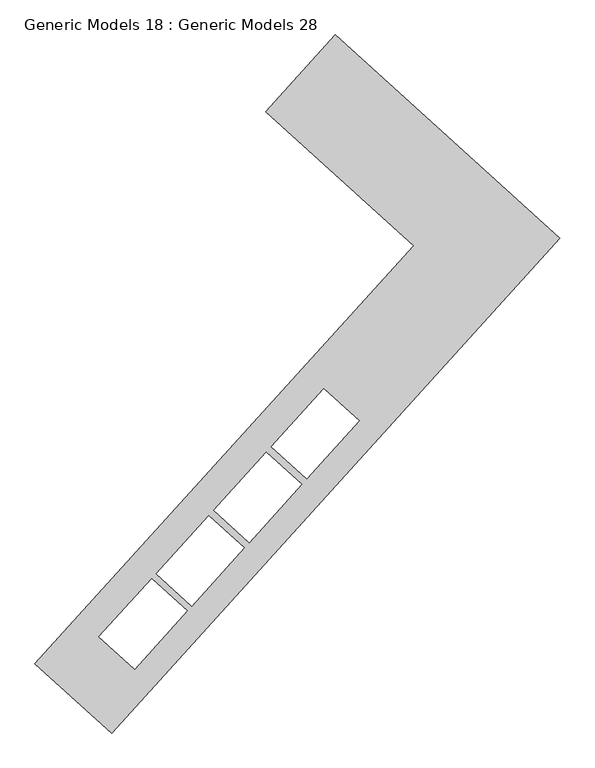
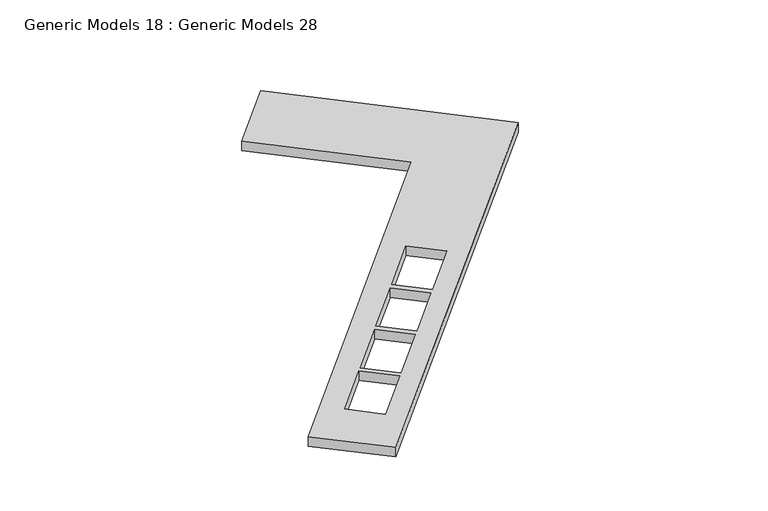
"""IFC4 building model written with IfcOpenShell, lengths in millimetres: proxy geometry, Generic Models 18 : Generic Models 28."""

from ifc_helpers import new_model, si_unit, frame, origin, place, context, project, spatial, polyline, outline, extrude, source, transform, mapped, element, save


def generic_models_18_generic_models_28_127b7962(model_context):
    return source(origin(), model_context, "Body", "SweptSolid", [
        extrude(outline(polyline([(-8921.9732234, 301.0690836), (-11953.6186807, -3047.0643498), (-12472.5100363, -2577.2220772), (-9910.7068515, 252.0200005), (-10911.5103948, 1158.220896), (-10441.6681222, 1677.1122516), (-8921.9732234, 301.0690836)]), holes=[polyline([(-11442.344944, -2220.9037792), (-11683.2587877, -2002.7627241), (-12038.9965083, -2395.6376076), (-11798.0826647, -2613.7786627), (-11442.344944, -2220.9037792)]), polyline([(-11056.4030773, -1794.6715942), (-11297.316921, -1576.5305391), (-11653.0546416, -1969.4054226), (-11412.1407979, -2187.5464777), (-11056.4030773, -1794.6715942)]), polyline([(-10667.1051943, -1364.7330424), (-10908.019038, -1146.5919873), (-11263.7567586, -1539.4668708), (-11022.8429149, -1757.607926), (-10667.1051943, -1364.7330424)]), polyline([(-10277.3660332, -934.3071454), (-10518.2798769, -716.1660902), (-10874.0175975, -1109.0409738), (-10633.1037538, -1327.1820289), (-10277.3660332, -934.3071454)])]), frame((0.0, 0.0, 830.0), z_axis=(0.0, 0.0, 1.0), x_axis=(1.0, 0.0, 0.0)), (0.0, 0.0, 1.0), 90.0),
    ])


if __name__ == "__main__":
    model = new_model("IFC4")
    model_context = context("Model", 3, world=origin())
    ifc_project = project(units=[si_unit("LENGTHUNIT", "METRE", prefix="MILLI")], contexts=[model_context])
    site = spatial("IfcSite", under=ifc_project)
    building = spatial("IfcBuilding", under=site)
    placement = place(None, origin())
    generic_models_18_generic_models_28_shape = generic_models_18_generic_models_28_127b7962(model_context)
    element("IfcBuildingElementProxy", 1, Name="Generic Models 18 : Generic Models 28", ObjectType="Generic Models 18 : Generic Models 28", at=placement, inside=building, context=model_context, shape_type="MappedRepresentation", body=[
        mapped(generic_models_18_generic_models_28_shape, transform((0.0, 0.0, 0.0), x_axis=(1.0, 0.0, 0.0), y_axis=(0.0, 1.0, 0.0), z_axis=(0.0, 0.0, 1.0))),
    ])
    save(model, "model.ifc")
